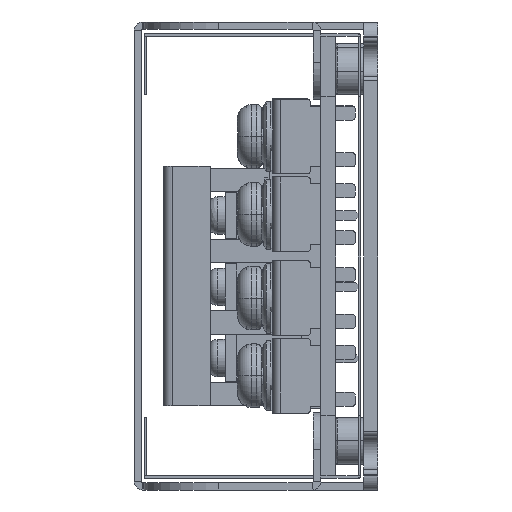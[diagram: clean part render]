
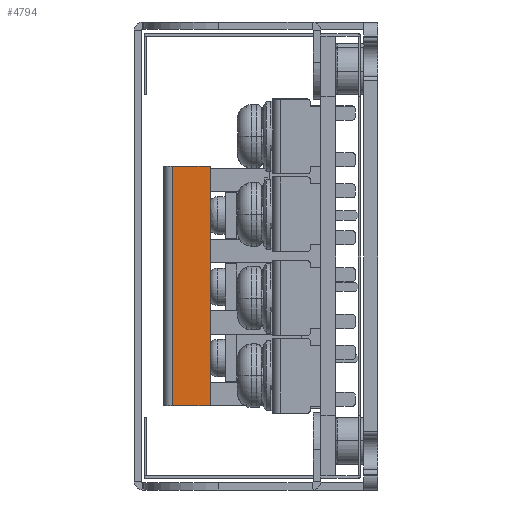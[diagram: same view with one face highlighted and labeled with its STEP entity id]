
A CAD part, left-side view. The second image highlights one B-rep face of the part: STEP entity #4794.
In plain terms, the highlighted planar face has unit normal (-1, 0, 0) as drawn and (0, 0, -1) by its records, which use the part's own axes.
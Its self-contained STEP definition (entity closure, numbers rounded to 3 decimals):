
#4491=DIRECTION('',(0.,1.,0.));
#4492=VECTOR('',#4491,4.);
#4493=CARTESIAN_POINT('',(0.,0.,-7.));
#4494=LINE('',#4493,#4492);
#4512=DIRECTION('',(-1.,0.,0.));
#4513=VECTOR('',#4512,25.56);
#4514=CARTESIAN_POINT('',(25.56,4.,-7.));
#4515=LINE('',#4514,#4513);
#4516=DIRECTION('',(1.,0.,0.));
#4517=VECTOR('',#4516,25.56);
#4518=CARTESIAN_POINT('',(0.,0.,-7.));
#4519=LINE('',#4518,#4517);
#4574=DIRECTION('',(0.,1.,0.));
#4575=VECTOR('',#4574,4.);
#4576=CARTESIAN_POINT('',(25.56,0.,-7.));
#4577=LINE('',#4576,#4575);
#4636=CARTESIAN_POINT('',(0.,0.,-7.));
#4637=VERTEX_POINT('',#4636);
#4656=CARTESIAN_POINT('',(25.56,0.,-7.));
#4657=VERTEX_POINT('',#4656);
#4667=CARTESIAN_POINT('',(0.,4.,-7.));
#4669=VERTEX_POINT('',#4667);
#4670=CARTESIAN_POINT('',(25.56,4.,-7.));
#4671=VERTEX_POINT('',#4670);
#4781=CARTESIAN_POINT('',(0.,0.,-7.));
#4782=DIRECTION('',(0.,0.,-1.));
#4783=DIRECTION('',(0.,1.,0.));
#4784=AXIS2_PLACEMENT_3D('',#4781,#4782,#4783);
#4785=PLANE('',#4784);
#4786=ORIENTED_EDGE('',*,*,#4766,.T.);
#4787=ORIENTED_EDGE('',*,*,#4701,.F.);
#4789=ORIENTED_EDGE('',*,*,#4788,.T.);
#4791=ORIENTED_EDGE('',*,*,#4790,.T.);
#4792=EDGE_LOOP('',(#4786,#4787,#4789,#4791));
#4793=FACE_OUTER_BOUND('',#4792,.F.);
#4701=EDGE_CURVE('',#4637,#4669,#4494,.T.);
#4766=EDGE_CURVE('',#4671,#4669,#4515,.T.);
#4788=EDGE_CURVE('',#4637,#4657,#4519,.T.);
#4790=EDGE_CURVE('',#4657,#4671,#4577,.T.);
#4794=ADVANCED_FACE('',(#4793),#4785,.T.);
